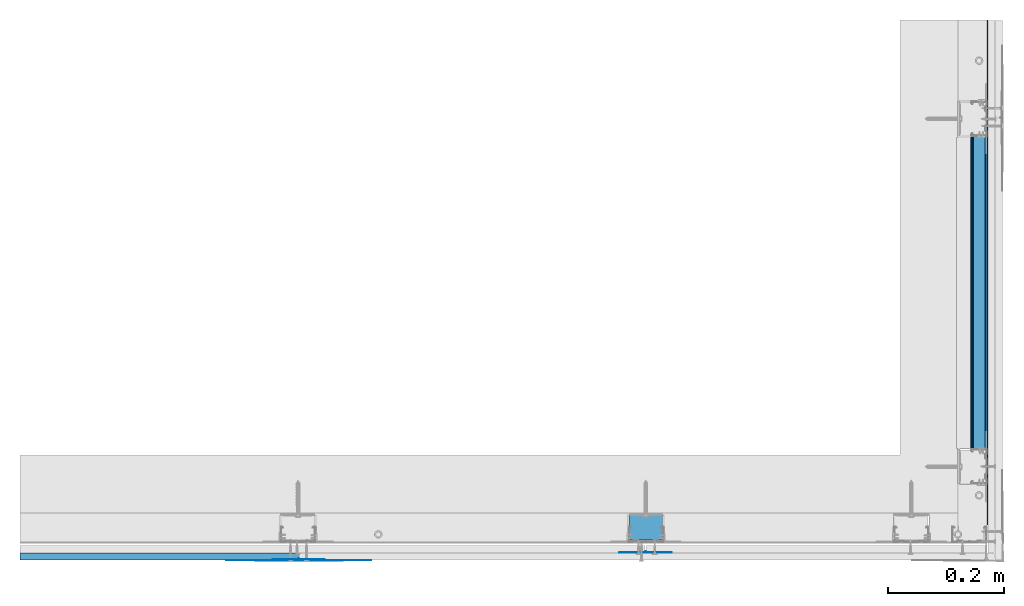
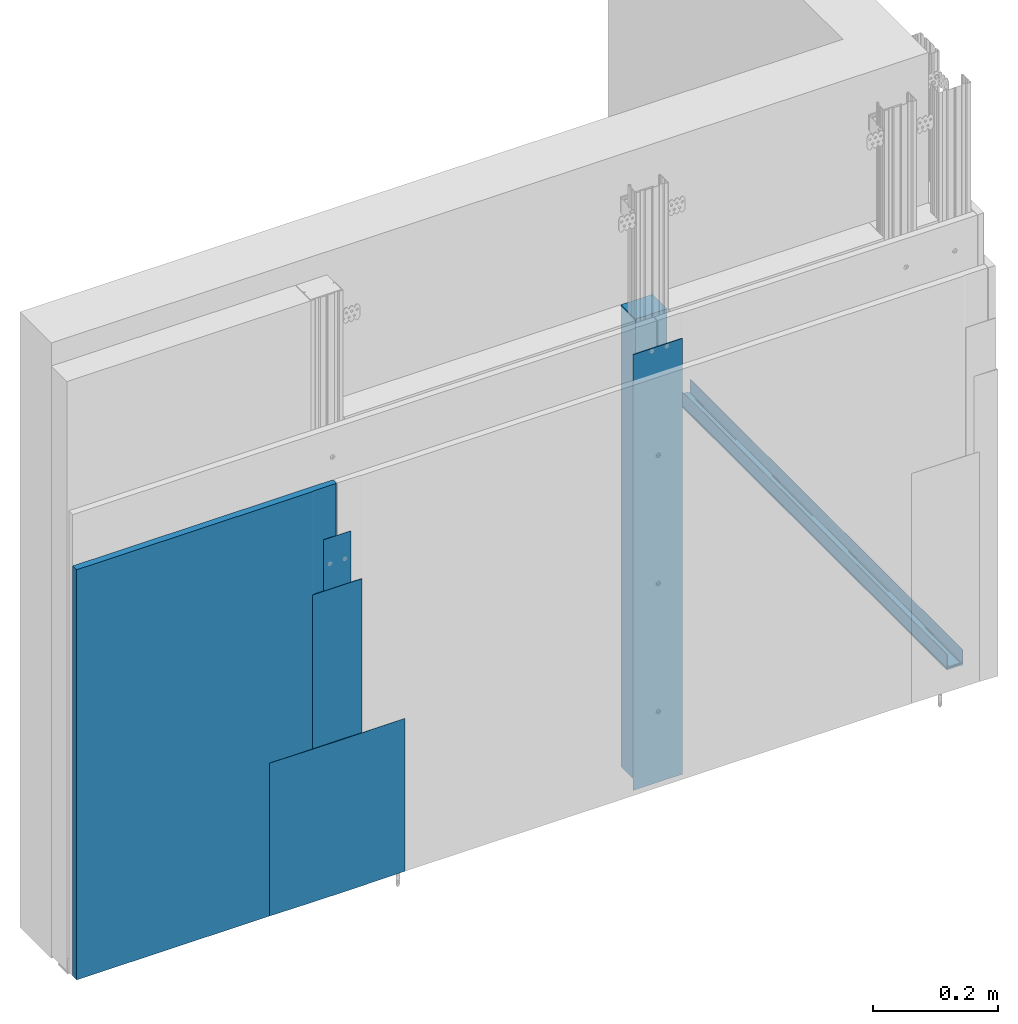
# One storey, part 5 of 56: 8 walls.
"""IFC2X3 building model written with IfcOpenShell, lengths in millimetres."""

from ifc_helpers import new_model, entity, si_unit, converted_unit, direction, frame, origin, origin_with_axes, place, context, project, spatial, faceted_brep, element, save


model = new_model("IFC2X3")

# Units and contexts
model_context = context("Model", 3, precision=1e-05, world=origin(), true_north=direction((0.0, 1.0, 0.0)))
ifc_project = project(units=[si_unit("LENGTHUNIT", "METRE", prefix="MILLI"), si_unit("AREAUNIT", "SQUARE_METRE"), si_unit("VOLUMEUNIT", "CUBIC_METRE"), converted_unit("PLANEANGLEUNIT", "DEGREE", entity("IfcPlaneAngleMeasure", 0.01745), si_unit("PLANEANGLEUNIT", "RADIAN"), dimensions=[0, 0, 0, 0, 0, 0, 0]), si_unit("SOLIDANGLEUNIT", "STERADIAN"), si_unit("MASSUNIT", "GRAM"), si_unit("TIMEUNIT", "SECOND"), si_unit("THERMODYNAMICTEMPERATUREUNIT", "DEGREE_CELSIUS"), si_unit("LUMINOUSINTENSITYUNIT", "LUMEN")], contexts=[model_context])

# Site, building, storey
site_placement = place(None, origin_with_axes())
site = spatial("IfcSite", under=ifc_project, at=site_placement, Name="Default Site", CompositionType="ELEMENT")
building_placement = place(site_placement, origin_with_axes())
building = spatial("IfcBuilding", under=site, at=building_placement, Name="Default Building", CompositionType="ELEMENT")
storey_placement = place(building_placement, origin_with_axes())
storey = spatial("IfcBuildingStorey", under=building, at=storey_placement, Name="Default Building Storey", CompositionType="ELEMENT", Elevation=0.0)

# Walls
wall_1_placement = place(storey_placement, frame((2296.026949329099, 3987.644992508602, -108.5909742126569), z_axis=(6.858158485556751e-13, -7.620176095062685e-14, 1.0), x_axis=(2.137179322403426e-15, -1.0, -7.620176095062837e-14)))
element("IfcWall", 1, at=wall_1_placement, inside=storey, Name="Taśma uszczelniająca piankowa RIGIPS", context=model_context, shape_type="Brep", body=[
    faceted_brep([(1114.628488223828, 1498.9660327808, 113.9750000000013), (1114.628488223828, 1498.9660327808, 110.9750000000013), (1114.628488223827, 1468.966032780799, 110.9750000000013), (1114.628488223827, 1468.9660327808, 113.9750000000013), (1985.856433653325, 1498.966032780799, 110.9750000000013), (1985.856433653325, 1498.966032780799, 113.9750000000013), (1985.856433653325, 1468.966032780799, 113.9750000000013), (1985.856433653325, 1468.966032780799, 110.9750000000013)], [[[0, 1, 2, 3]], [[4, 5, 6, 7]], [[5, 0, 3, 6]], [[6, 3, 2, 7]], [[7, 2, 1, 4]], [[4, 1, 0, 5]]]),
])
wall_2_placement = place(storey_placement, frame((2296.026949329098, 3652.877282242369, -108.5909742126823), z_axis=(6.858158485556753e-13, -7.620176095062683e-14, 1.0), x_axis=(2.137179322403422e-15, -1.0, -7.620176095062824e-14)))
element("IfcWall", 2, at=wall_2_placement, inside=storey, Name="Profil RIGIPS UD30 ULTRASTIL®", context=model_context, shape_type="Brep", body=[
    faceted_brep([(1651.088723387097, 1469.916032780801, 140.9749999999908), (1651.088723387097, 1469.366032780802, 140.9749999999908), (1651.088723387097, 1469.366032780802, 114.774999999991), (1651.088723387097, 1469.375882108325, 114.6498524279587), (1651.088723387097, 1469.405187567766, 114.5277864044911), (1651.088723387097, 1469.453227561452, 114.4118076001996), (1651.088723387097, 1469.518819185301, 114.3047717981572), (1651.088723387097, 1469.600347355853, 114.2093145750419), (1651.088723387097, 1469.695804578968, 114.1277864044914), (1651.088723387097, 1469.80284038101, 114.0621947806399), (1651.088723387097, 1469.918819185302, 114.0141547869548), (1651.088723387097, 1470.04088520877, 113.9848493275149), (1651.088723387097, 1470.166032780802, 113.9749999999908), (1651.088723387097, 1472.016032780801, 113.9749999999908), (1651.088723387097, 1472.163550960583, 113.9887186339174), (1651.088723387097, 1472.3060097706, 114.0294040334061), (1651.088723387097, 1472.438523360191, 114.0956608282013), (1651.088723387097, 1472.556546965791, 114.1852166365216), (1651.088723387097, 1472.656032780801, 114.2949999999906), (1651.088723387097, 1473.676032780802, 115.6549999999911), (1651.088723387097, 1473.775518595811, 115.7647833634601), (1651.088723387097, 1473.893542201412, 115.8543391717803), (1651.088723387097, 1474.026055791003, 115.9205959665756), (1651.088723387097, 1474.16851460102, 115.9612813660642), (1651.088723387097, 1474.316032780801, 115.9749999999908), (1651.088723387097, 1493.616032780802, 115.9749999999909), (1651.088723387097, 1493.763550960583, 115.9612813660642), (1651.088723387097, 1493.9060097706, 115.9205959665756), (1651.088723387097, 1494.03852336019, 115.8543391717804), (1651.088723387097, 1494.156546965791, 115.7647833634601), (1651.088723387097, 1494.256032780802, 115.6549999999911), (1651.088723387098, 1495.276032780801, 114.2949999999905), (1651.088723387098, 1495.375518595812, 114.1852166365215), (1651.088723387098, 1495.493542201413, 114.0956608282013), (1651.088723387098, 1495.626055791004, 114.0294040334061), (1651.088723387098, 1495.76851460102, 113.9887186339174), (1651.088723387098, 1495.916032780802, 113.9749999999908), (1651.088723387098, 1497.766032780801, 113.9749999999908), (1651.088723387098, 1497.891180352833, 113.9848493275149), (1651.088723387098, 1498.013246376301, 114.0141547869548), (1651.088723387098, 1498.129225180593, 114.0621947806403), (1651.088723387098, 1498.236260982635, 114.127786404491), (1651.088723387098, 1498.33171820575, 114.2093145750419), (1651.088723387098, 1498.413246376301, 114.3047717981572), (1651.088723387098, 1498.478838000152, 114.4118076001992), (1651.088723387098, 1498.526877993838, 114.5277864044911), (1651.088723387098, 1498.556183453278, 114.6498524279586), (1651.088723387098, 1498.566032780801, 114.774999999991), (1651.088723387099, 1498.566032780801, 140.9749999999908), (1651.088723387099, 1498.016032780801, 140.9749999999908), (1651.088723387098, 1498.016032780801, 114.774999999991), (1651.088723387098, 1498.01295486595, 114.7358913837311), (1651.088723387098, 1498.003796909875, 114.6977457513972), (1651.088723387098, 1497.988784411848, 114.661502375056), (1651.088723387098, 1497.968287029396, 114.6280536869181), (1651.088723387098, 1497.942809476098, 114.5982233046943), (1651.088723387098, 1497.912979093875, 114.5727457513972), (1651.088723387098, 1497.879530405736, 114.5522483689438), (1651.088723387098, 1497.843287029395, 114.5372358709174), (1651.088723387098, 1497.805141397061, 114.528077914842), (1651.088723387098, 1497.766032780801, 114.524999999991), (1651.088723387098, 1495.916032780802, 114.524999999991), (1651.088723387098, 1495.86993334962, 114.5292870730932), (1651.088723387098, 1495.82541497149, 114.5420012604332), (1651.088723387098, 1495.784004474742, 114.562706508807), (1651.088723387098, 1495.747122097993, 114.5906926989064), (1651.088723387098, 1495.716032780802, 114.6249999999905), (1651.088723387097, 1494.696032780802, 115.9849999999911), (1651.088723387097, 1494.528150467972, 116.1702594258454), (1651.088723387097, 1494.32898563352, 116.3213848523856), (1651.088723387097, 1494.105368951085, 116.4331931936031), (1651.088723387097, 1493.864969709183, 116.5018498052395), (1651.088723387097, 1493.616032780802, 116.5249999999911), (1651.088723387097, 1474.316032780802, 116.524999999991), (1651.088723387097, 1474.06709585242, 116.5018498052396), (1651.088723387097, 1473.826696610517, 116.4331931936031), (1651.088723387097, 1473.603079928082, 116.3213848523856), (1651.088723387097, 1473.403915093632, 116.1702594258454), (1651.088723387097, 1473.236032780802, 115.984999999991), (1651.088723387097, 1472.216032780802, 114.6249999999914), (1651.088723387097, 1472.184943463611, 114.5906926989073), (1651.088723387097, 1472.14806108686, 114.562706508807), (1651.088723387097, 1472.106650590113, 114.5420012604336), (1651.088723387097, 1472.062132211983, 114.5292870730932), (1651.088723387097, 1472.016032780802, 114.524999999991), (1651.088723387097, 1470.166032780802, 114.524999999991), (1651.088723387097, 1470.126924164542, 114.528077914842), (1651.088723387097, 1470.088778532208, 114.5372358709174), (1651.088723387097, 1470.052535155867, 114.5522483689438), (1651.088723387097, 1470.019086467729, 114.5727457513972), (1651.088723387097, 1469.989256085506, 114.5982233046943), (1651.088723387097, 1469.963778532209, 114.6280536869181), (1651.088723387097, 1469.943281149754, 114.661502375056), (1651.088723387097, 1469.928268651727, 114.6977457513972), (1651.088723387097, 1469.919110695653, 114.7358913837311), (1651.088723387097, 1469.916032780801, 114.774999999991), (779.8607779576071, 1469.366032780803, 114.7750000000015), (779.8607779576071, 1469.366032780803, 140.9750000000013), (779.8607779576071, 1469.916032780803, 140.9750000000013), (779.8607779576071, 1469.916032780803, 114.7750000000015), (779.8607779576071, 1469.919110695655, 114.7358913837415), (779.8607779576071, 1469.92826865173, 114.6977457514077), (779.8607779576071, 1469.943281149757, 114.6615023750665), (779.8607779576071, 1469.96377853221, 114.6280536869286), (779.8607779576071, 1469.989256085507, 114.5982233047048), (779.8607779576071, 1470.019086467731, 114.5727457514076), (779.8607779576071, 1470.052535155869, 114.5522483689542), (779.8607779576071, 1470.08877853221, 114.5372358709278), (779.8607779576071, 1470.126924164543, 114.5280779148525), (779.8607779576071, 1470.166032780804, 114.5250000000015), (779.8607779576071, 1472.016032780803, 114.5250000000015), (779.8607779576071, 1472.062132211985, 114.5292870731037), (779.8607779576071, 1472.106650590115, 114.5420012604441), (779.8607779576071, 1472.148061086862, 114.5627065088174), (779.8607779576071, 1472.184943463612, 114.5906926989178), (779.8607779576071, 1472.216032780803, 114.6250000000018), (779.8607779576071, 1473.236032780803, 115.9850000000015), (779.8607779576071, 1473.403915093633, 116.1702594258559), (779.8607779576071, 1473.603079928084, 116.321384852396), (779.8607779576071, 1473.826696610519, 116.4331931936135), (779.8607779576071, 1474.067095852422, 116.50184980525), (779.8607779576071, 1474.316032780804, 116.5250000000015), (779.8607779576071, 1493.616032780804, 116.5250000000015), (779.8607779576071, 1493.864969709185, 116.50184980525), (779.8607779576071, 1494.105368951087, 116.4331931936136), (779.8607779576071, 1494.328985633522, 116.321384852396), (779.8607779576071, 1494.528150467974, 116.1702594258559), (779.8607779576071, 1494.696032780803, 115.9850000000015), (779.8607779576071, 1495.716032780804, 114.6250000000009), (779.8607779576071, 1495.747122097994, 114.5906926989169), (779.8607779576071, 1495.784004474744, 114.5627065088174), (779.8607779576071, 1495.825414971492, 114.5420012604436), (779.8607779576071, 1495.869933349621, 114.5292870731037), (779.8607779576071, 1495.916032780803, 114.5250000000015), (779.8607779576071, 1497.766032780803, 114.5250000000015), (779.8607779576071, 1497.805141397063, 114.5280779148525), (779.8607779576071, 1497.843287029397, 114.5372358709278), (779.8607779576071, 1497.879530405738, 114.5522483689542), (779.8607779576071, 1497.912979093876, 114.5727457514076), (779.8607779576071, 1497.9428094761, 114.5982233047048), (779.8607779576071, 1497.968287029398, 114.6280536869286), (779.8607779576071, 1497.98878441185, 114.6615023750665), (779.8607779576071, 1498.003796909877, 114.6977457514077), (779.8607779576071, 1498.012954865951, 114.7358913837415), (779.8607779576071, 1498.016032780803, 114.7750000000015), (779.8607779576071, 1498.016032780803, 140.9750000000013), (779.8607779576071, 1498.566032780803, 140.9750000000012), (779.8607779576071, 1498.566032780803, 114.7750000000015), (779.8607779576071, 1498.556183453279, 114.6498524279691), (779.8607779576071, 1498.526877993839, 114.5277864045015), (779.8607779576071, 1498.478838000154, 114.4118076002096), (779.8607779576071, 1498.413246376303, 114.3047717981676), (779.8607779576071, 1498.331718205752, 114.2093145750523), (779.8607779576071, 1498.236260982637, 114.1277864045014), (779.8607779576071, 1498.129225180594, 114.0621947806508), (779.8607779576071, 1498.013246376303, 114.0141547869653), (779.8607779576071, 1497.891180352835, 113.9848493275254), (779.8607779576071, 1497.766032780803, 113.9750000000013), (779.8607779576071, 1495.916032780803, 113.9750000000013), (779.8607779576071, 1495.768514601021, 113.9887186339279), (779.8607779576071, 1495.626055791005, 114.0294040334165), (779.8607779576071, 1495.493542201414, 114.0956608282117), (779.8607779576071, 1495.375518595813, 114.185216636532), (779.8607779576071, 1495.276032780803, 114.295000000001), (779.8607779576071, 1494.256032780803, 115.6550000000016), (779.8607779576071, 1494.156546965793, 115.7647833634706), (779.8607779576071, 1494.038523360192, 115.8543391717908), (779.8607779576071, 1493.906009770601, 115.920595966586), (779.8607779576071, 1493.763550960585, 115.9612813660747), (779.8607779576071, 1493.616032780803, 115.9750000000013), (779.8607779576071, 1474.316032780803, 115.9750000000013), (779.8607779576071, 1474.168514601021, 115.9612813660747), (779.8607779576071, 1474.026055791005, 115.920595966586), (779.8607779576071, 1473.893542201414, 115.8543391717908), (779.8607779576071, 1473.775518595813, 115.7647833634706), (779.8607779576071, 1473.676032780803, 115.6550000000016), (779.8607779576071, 1472.656032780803, 114.295000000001), (779.8607779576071, 1472.556546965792, 114.185216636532), (779.8607779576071, 1472.438523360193, 114.0956608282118), (779.8607779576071, 1472.306009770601, 114.0294040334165), (779.8607779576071, 1472.163550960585, 113.9887186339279), (779.8607779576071, 1472.016032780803, 113.9750000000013), (779.8607779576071, 1470.166032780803, 113.9750000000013), (779.8607779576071, 1470.040885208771, 113.9848493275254), (779.8607779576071, 1469.918819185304, 114.0141547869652), (779.8607779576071, 1469.802840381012, 114.0621947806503), (779.8607779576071, 1469.695804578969, 114.1277864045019), (779.8607779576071, 1469.600347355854, 114.2093145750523), (779.8607779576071, 1469.518819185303, 114.3047717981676), (779.8607779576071, 1469.453227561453, 114.4118076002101), (779.8607779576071, 1469.405187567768, 114.5277864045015), (779.8607779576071, 1469.375882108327, 114.6498524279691)], [[[0, 1, 2, 3, 4, 5, 6, 7, 8, 9, 10, 11, 12, 13, 14, 15, 16, 17, 18, 19, 20, 21, 22, 23, 24, 25, 26, 27, 28, 29, 30, 31, 32, 33, 34, 35, 36, 37, 38, 39, 40, 41, 42, 43, 44, 45, 46, 47, 48, 49, 50, 51, 52, 53, 54, 55, 56, 57, 58, 59, 60, 61, 62, 63, 64, 65, 66, 67, 68, 69, 70, 71, 72, 73, 74, 75, 76, 77, 78, 79, 80, 81, 82, 83, 84, 85, 86, 87, 88, 89, 90, 91, 92, 93, 94, 95]], [[96, 97, 98, 99, 100, 101, 102, 103, 104, 105, 106, 107, 108, 109, 110, 111, 112, 113, 114, 115, 116, 117, 118, 119, 120, 121, 122, 123, 124, 125, 126, 127, 128, 129, 130, 131, 132, 133, 134, 135, 136, 137, 138, 139, 140, 141, 142, 143, 144, 145, 146, 147, 148, 149, 150, 151, 152, 153, 154, 155, 156, 157, 158, 159, 160, 161, 162, 163, 164, 165, 166, 167, 168, 169, 170, 171, 172, 173, 174, 175, 176, 177, 178, 179, 180, 181, 182, 183, 184, 185, 186, 187, 188, 189, 190, 191]], [[23, 171, 170, 24]], [[22, 172, 171, 23]], [[175, 174, 20, 19]], [[172, 22, 21, 173]], [[20, 174, 173, 21]], [[24, 170, 169, 25]], [[29, 165, 164, 30]], [[165, 29, 28, 166]], [[27, 167, 166, 28]], [[169, 168, 26, 25]], [[26, 168, 167, 27]], [[30, 164, 163, 31]], [[35, 159, 158, 36]], [[34, 160, 159, 35]], [[33, 32, 162, 161]], [[161, 160, 34, 33]], [[163, 162, 32, 31]], [[36, 158, 157, 37]], [[46, 45, 149, 148]], [[148, 147, 47, 46]], [[44, 150, 149, 45]], [[43, 42, 152, 151]], [[151, 150, 44, 43]], [[41, 40, 154, 153]], [[153, 152, 42, 41]], [[39, 155, 154, 40]], [[38, 37, 157, 156]], [[156, 155, 39, 38]], [[47, 147, 146, 48]], [[48, 146, 145, 49]], [[49, 145, 144, 50]], [[134, 60, 59, 135]], [[58, 136, 135, 59]], [[57, 137, 136, 58]], [[137, 57, 56, 138]], [[55, 139, 138, 56]], [[139, 55, 54, 140]], [[53, 141, 140, 54]], [[52, 142, 141, 53]], [[142, 52, 51, 143]], [[50, 144, 143, 51]], [[60, 134, 133, 61]], [[65, 129, 128, 66]], [[129, 65, 64, 130]], [[63, 131, 130, 64]], [[133, 132, 62, 61]], [[62, 132, 131, 63]], [[66, 128, 127, 67]], [[71, 123, 122, 72]], [[70, 69, 125, 124]], [[124, 123, 71, 70]], [[68, 126, 125, 69]], [[127, 126, 68, 67]], [[72, 122, 121, 73]], [[77, 117, 116, 78]], [[76, 118, 117, 77]], [[75, 74, 120, 119]], [[119, 118, 76, 75]], [[121, 120, 74, 73]], [[78, 116, 115, 79]], [[83, 111, 110, 84]], [[82, 112, 111, 83]], [[115, 114, 80, 79]], [[112, 82, 81, 113]], [[80, 114, 113, 81]], [[84, 110, 109, 85]], [[99, 95, 94, 100]], [[93, 101, 100, 94]], [[92, 102, 101, 93]], [[102, 92, 91, 103]], [[90, 104, 103, 91]], [[104, 90, 89, 105]], [[88, 106, 105, 89]], [[87, 107, 106, 88]], [[107, 87, 86, 108]], [[85, 109, 108, 86]], [[95, 99, 98, 0]], [[0, 98, 97, 1]], [[1, 97, 96, 2]], [[11, 10, 184, 183]], [[183, 182, 12, 11]], [[9, 185, 184, 10]], [[6, 5, 189, 188]], [[7, 6, 188, 187]], [[8, 7, 187, 186]], [[186, 185, 9, 8]], [[4, 190, 189, 5]], [[3, 2, 96, 191]], [[191, 190, 4, 3]], [[12, 182, 181, 13]], [[17, 177, 176, 18]], [[16, 15, 179, 178]], [[178, 177, 17, 16]], [[14, 180, 179, 15]], [[181, 180, 14, 13]], [[18, 176, 175, 19]]]),
])
wall_3_placement = place(storey_placement, frame((2605.098644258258, 1953.680077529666, 1059.193597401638), z_axis=(0.0, 0.0, 1.0), x_axis=(-1.0, -6.389333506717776e-13, 0.0)))
element("IfcWall", 3, at=wall_3_placement, inside=storey, Name="Płyta gipsowo-kartonowa RIGIPS PRO (4PRO™)", context=model_context, shape_type="Brep", body=[
    faceted_brep([(480.0735107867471, 12.49999999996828, -250.0000000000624), (480.0735107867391, -3.320792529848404e-11, -250.0000000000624), (480.0735107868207, 6.244533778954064e-11, -1050.001581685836), (480.0735107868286, 12.50000000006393, -1050.001581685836), (44.99999999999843, 12.50000000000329, -1050.001581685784), (44.99999999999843, 12.50000000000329, -249.9999999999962), (40.99999999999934, 11.5000000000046, -249.9999999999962), (40.99999999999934, 11.5000000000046, -1050.001581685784), (0.9999999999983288, 11.50000000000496, -249.9999999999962), (0.9999999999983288, 11.50000000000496, -1050.001581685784), (0.7411809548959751, 11.46592582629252, -249.9999999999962), (0.7411809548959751, 11.46592582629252, -1050.001581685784), (0.4999999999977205, 11.3660254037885, -249.9999999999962), (0.4999999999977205, 11.3660254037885, -1050.001581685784), (0.29289321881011, 11.20710678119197, -249.9999999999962), (0.29289321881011, 11.20710678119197, -1050.001581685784), (0.1339745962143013, 11.00000000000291, -249.9999999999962), (0.1339745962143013, 11.00000000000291, -1050.001581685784), (0.03407417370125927, 10.7588190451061, -249.9999999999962), (0.03407417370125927, 10.7588190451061, -1050.001581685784), (-4.692424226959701e-12, 10.50000000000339, -249.9999999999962), (-4.692424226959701e-12, 10.50000000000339, -1050.001581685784), (0.0, 0.0, -249.9999999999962), (0.0, 0.0, -1050.001581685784)], [[[0, 1, 2, 3]], [[0, 3, 4, 5]], [[6, 5, 4, 7]], [[8, 6, 7, 9]], [[10, 8, 9, 11]], [[12, 10, 11, 13]], [[14, 12, 13, 15]], [[16, 14, 15, 17]], [[18, 16, 17, 19]], [[20, 18, 19, 21]], [[22, 20, 21, 23]], [[23, 2, 1, 22]], [[4, 3, 2, 23, 21, 19, 17, 15, 13, 11, 9, 7]], [[1, 0, 5, 6, 8, 10, 12, 14, 16, 18, 20, 22]]]),
])
wall_4_placement = place(storey_placement, frame((2467.14430230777, 5344.236799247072, 258.3935974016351), z_axis=(0.0, 0.0, 1.0), x_axis=(-1.0, 4.718447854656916e-16, 0.0)))
element("IfcWall", 4, at=wall_4_placement, inside=storey, Name="Dedykowana masa szpachlowa Rigips - konstrukcyjna", context=model_context, shape_type="Brep", body=[
    faceted_brep([(-737.4838396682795, 3387.669590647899, 600.7999999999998), (-737.4592163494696, 3387.356721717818, 600.7999999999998), (-737.4345930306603, 3387.669590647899, 600.7999999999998), (-737.3613293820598, 3387.974755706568, 600.7999999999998), (-737.2412293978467, 3388.264702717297, 600.7999999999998), (-737.0772503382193, 3388.532292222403, 600.7999999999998), (-736.8734299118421, 3388.770935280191, 600.7999999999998), (-736.6347868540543, 3388.974755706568, 600.7999999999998), (-736.3671973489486, 3389.138734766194, 600.7999999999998), (-736.0772503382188, 3389.258834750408, 600.7999999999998), (-735.7720852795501, 3389.332098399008, 600.7999999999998), (-735.4592163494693, 3389.356721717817, 600.7999999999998), (-692.4592163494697, 3389.356721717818, 600.7999999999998), (-691.4592163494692, 3390.556721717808, 600.7999999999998), (-782.4592163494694, 3390.556721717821, 600.7999999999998), (-782.4592163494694, 3389.356721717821, 600.7999999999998), (-739.4592163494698, 3389.356721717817, 600.7999999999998), (-739.146347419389, 3389.332098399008, 600.7999999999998), (-738.8411823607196, 3389.258834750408, 600.7999999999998), (-738.5512353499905, 3389.138734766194, 600.7999999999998), (-738.2836458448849, 3388.974755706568, 600.7999999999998), (-738.045002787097, 3388.770935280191, 600.7999999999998), (-737.8411823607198, 3388.532292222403, 600.7999999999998), (-737.6772033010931, 3388.264702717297, 600.7999999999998), (-737.5571033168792, 3387.974755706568, 600.7999999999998), (-691.4592163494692, 3390.556721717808, -249.2015816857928), (-692.4592163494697, 3389.356721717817, -249.2015816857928), (-735.4592163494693, 3389.356721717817, -249.2015816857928), (-735.7720852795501, 3389.332098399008, -249.2015816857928), (-736.0772503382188, 3389.258834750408, -249.2015816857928), (-736.3671973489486, 3389.138734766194, -249.2015816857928), (-736.6347868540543, 3388.974755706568, -249.2015816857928), (-736.8734299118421, 3388.77093528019, -249.2015816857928), (-737.0772503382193, 3388.532292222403, -249.2015816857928), (-737.2412293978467, 3388.264702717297, -249.2015816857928), (-737.3613293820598, 3387.974755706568, -249.2015816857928), (-737.4345930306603, 3387.669590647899, -249.2015816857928), (-737.4592163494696, 3387.356721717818, -249.2015816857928), (-737.4838396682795, 3387.669590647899, -249.2015816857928), (-737.5571033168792, 3387.974755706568, -249.2015816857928), (-737.6772033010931, 3388.264702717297, -249.2015816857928), (-737.8411823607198, 3388.532292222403, -249.2015816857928), (-738.045002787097, 3388.77093528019, -249.2015816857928), (-738.2836458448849, 3388.974755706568, -249.2015816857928), (-738.5512353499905, 3389.138734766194, -249.2015816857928), (-738.8411823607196, 3389.258834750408, -249.2015816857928), (-739.146347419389, 3389.332098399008, -249.2015816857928), (-739.4592163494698, 3389.356721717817, -249.2015816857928), (-782.4592163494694, 3389.356721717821, -249.2015816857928), (-782.4592163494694, 3390.556721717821, -249.2015816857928)], [[[0, 1, 2, 3, 4, 5, 6, 7, 8, 9, 10, 11, 12, 13, 14, 15, 16, 17, 18, 19, 20, 21, 22, 23, 24]], [[25, 26, 27, 28, 29, 30, 31, 32, 33, 34, 35, 36, 37, 38, 39, 40, 41, 42, 43, 44, 45, 46, 47, 48, 49]], [[26, 12, 11, 27]], [[10, 9, 29, 28]], [[28, 27, 11, 10]], [[8, 30, 29, 9]], [[7, 6, 32, 31]], [[31, 30, 8, 7]], [[5, 4, 34, 33]], [[33, 32, 6, 5]], [[3, 35, 34, 4]], [[2, 1, 37, 36]], [[36, 35, 3, 2]], [[0, 24, 39, 38]], [[38, 37, 1, 0]], [[23, 40, 39, 24]], [[22, 21, 42, 41]], [[41, 40, 23, 22]], [[20, 19, 44, 43]], [[43, 42, 21, 20]], [[18, 45, 44, 19]], [[17, 16, 47, 46]], [[46, 45, 18, 17]], [[47, 16, 15, 48]], [[48, 15, 14, 49]], [[49, 14, 13, 25]], [[25, 13, 12, 26]]]),
])
wall_5_placement = place(storey_placement, frame((1868.639427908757, 5331.736799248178, 6.74201878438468), z_axis=(0.0, 0.0, 1.0), x_axis=(-1.0, 4.718447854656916e-16, 0.0)))
element("IfcWall", 5, at=wall_5_placement, inside=storey, Name="Dedykowana masa szpachlowa Rigips - konstrukcyjna", context=model_context, shape_type="Brep", body=[
    faceted_brep([(-737.4838396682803, 3387.6695906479, 600.7999999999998), (-737.4592163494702, 3387.356721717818, 600.7999999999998), (-737.434593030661, 3387.6695906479, 600.7999999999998), (-737.3613293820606, 3387.974755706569, 600.7999999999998), (-737.2412293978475, 3388.264702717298, 600.7999999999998), (-737.07725033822, 3388.532292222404, 600.7999999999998), (-736.8734299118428, 3388.770935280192, 600.7999999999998), (-736.6347868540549, 3388.974755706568, 600.7999999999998), (-736.3671973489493, 3389.138734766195, 600.7999999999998), (-736.0772503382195, 3389.258834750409, 600.7999999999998), (-735.7720852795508, 3389.332098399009, 600.7999999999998), (-735.45921634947, 3389.356721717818, 600.7999999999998), (-692.4592163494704, 3389.356721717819, 600.7999999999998), (-691.4592163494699, 3390.556721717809, 600.7999999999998), (-782.4592163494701, 3390.556721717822, 600.7999999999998), (-782.4592163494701, 3389.356721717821, 600.7999999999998), (-739.4592163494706, 3389.356721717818, 600.7999999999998), (-739.1463474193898, 3389.332098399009, 600.7999999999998), (-738.8411823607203, 3389.258834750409, 600.7999999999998), (-738.5512353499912, 3389.138734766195, 600.7999999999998), (-738.2836458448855, 3388.974755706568, 600.7999999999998), (-738.0450027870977, 3388.770935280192, 600.7999999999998), (-737.8411823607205, 3388.532292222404, 600.7999999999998), (-737.6772033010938, 3388.264702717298, 600.7999999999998), (-737.55710331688, 3387.974755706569, 600.7999999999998), (-691.4592163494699, 3390.556721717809, 2.449996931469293), (-692.4592163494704, 3389.356721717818, 2.449996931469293), (-735.45921634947, 3389.356721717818, 2.449996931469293), (-735.7720852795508, 3389.332098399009, 2.449996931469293), (-736.0772503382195, 3389.258834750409, 2.449996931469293), (-736.3671973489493, 3389.138734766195, 2.449996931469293), (-736.6347868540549, 3388.974755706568, 2.449996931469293), (-736.8734299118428, 3388.770935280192, 2.449996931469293), (-737.07725033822, 3388.532292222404, 2.449996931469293), (-737.2412293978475, 3388.264702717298, 2.449996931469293), (-737.3613293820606, 3387.974755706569, 2.449996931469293), (-737.434593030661, 3387.6695906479, 2.449996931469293), (-737.4592163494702, 3387.356721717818, 2.449996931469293), (-737.4838396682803, 3387.6695906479, 2.449996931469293), (-737.55710331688, 3387.974755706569, 2.449996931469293), (-737.6772033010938, 3388.264702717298, 2.449996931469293), (-737.8411823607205, 3388.532292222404, 2.449996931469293), (-738.0450027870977, 3388.770935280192, 2.449996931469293), (-738.2836458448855, 3388.974755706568, 2.449996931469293), (-738.5512353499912, 3389.138734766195, 2.449996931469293), (-738.8411823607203, 3389.258834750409, 2.449996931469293), (-739.1463474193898, 3389.332098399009, 2.449996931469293), (-739.4592163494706, 3389.356721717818, 2.449996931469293), (-782.4592163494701, 3389.356721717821, 2.449996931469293), (-782.4592163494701, 3390.556721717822, 2.449996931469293)], [[[0, 1, 2, 3, 4, 5, 6, 7, 8, 9, 10, 11, 12, 13, 14, 15, 16, 17, 18, 19, 20, 21, 22, 23, 24]], [[25, 26, 27, 28, 29, 30, 31, 32, 33, 34, 35, 36, 37, 38, 39, 40, 41, 42, 43, 44, 45, 46, 47, 48, 49]], [[26, 12, 11, 27]], [[10, 9, 29, 28]], [[28, 27, 11, 10]], [[8, 30, 29, 9]], [[7, 6, 32, 31]], [[31, 30, 8, 7]], [[5, 4, 34, 33]], [[33, 32, 6, 5]], [[3, 35, 34, 4]], [[2, 1, 37, 36]], [[36, 35, 3, 2]], [[0, 24, 39, 38]], [[38, 37, 1, 0]], [[23, 40, 39, 24]], [[22, 21, 42, 41]], [[41, 40, 23, 22]], [[20, 19, 44, 43]], [[43, 42, 21, 20]], [[18, 45, 44, 19]], [[17, 16, 47, 46]], [[46, 45, 18, 17]], [[47, 16, 15, 48]], [[48, 15, 14, 49]], [[49, 14, 13, 25]], [[25, 13, 12, 26]]]),
])
wall_6_placement = place(storey_placement, frame((1868.639427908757, 5331.736799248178, 6.74201878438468), z_axis=(0.0, 0.0, 1.0), x_axis=(-1.0, 4.718447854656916e-16, 0.0)))
element("IfcWall", 6, at=wall_6_placement, inside=storey, Name="Dedykowana masa szpachlowa Rigips - wykończeniowa", context=model_context, shape_type="Brep", body=[
    faceted_brep([(-612.459216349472, 3390.556721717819, 2.449996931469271), (-862.459216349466, 3390.556721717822, 2.449996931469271), (-812.4612643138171, 3391.196716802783, 2.449996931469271), (-762.4602403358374, 3391.516720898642, 2.449996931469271), (-712.458192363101, 3391.516720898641, 2.449996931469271), (-662.4571683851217, 3391.19671680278, 2.449996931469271), (-762.4602403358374, 3391.516720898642, 300.8000000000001), (-812.4612643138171, 3391.196716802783, 300.8000000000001), (-862.459216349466, 3390.556721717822, 300.8000000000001), (-612.459216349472, 3390.556721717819, 300.8000000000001), (-662.4571683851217, 3391.19671680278, 300.8000000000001), (-712.458192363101, 3391.516720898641, 300.8000000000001)], [[[0, 1, 2, 3, 4, 5]], [[6, 7, 8, 9, 10, 11]], [[9, 0, 5, 10]], [[10, 5, 4, 11]], [[11, 4, 3, 6]], [[6, 3, 2, 7]], [[1, 8, 7, 2]], [[0, 9, 8, 1]]]),
])
wall_7_placement = place(storey_placement, frame((1868.639427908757, 5331.736799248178, 6.74201878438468), z_axis=(0.0, 0.0, 1.0), x_axis=(-1.0, 4.718447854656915e-16, 0.0)))
element("IfcWall", 7, at=wall_7_placement, inside=storey, Name="Taśma spoinowa RIGIPS", context=model_context, shape_type="Brep", body=[
    faceted_brep([(-712.4592163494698, 3389.356721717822, 700.7999999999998), (-712.4592163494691, 3389.856721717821, 700.7999999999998), (-762.4592163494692, 3389.856721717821, 700.7999999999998), (-762.45921634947, 3389.35672171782, 700.7999999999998), (-712.4592163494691, 3389.856721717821, 2.449996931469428), (-712.4592163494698, 3389.35672171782, 2.449996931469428), (-762.45921634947, 3389.35672171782, 2.449996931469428), (-762.4592163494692, 3389.856721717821, 2.449996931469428)], [[[0, 1, 2, 3]], [[4, 5, 6, 7]], [[5, 0, 3, 6]], [[6, 3, 2, 7]], [[7, 2, 1, 4]], [[4, 1, 0, 5]]]),
])
wall_8_placement = place(storey_placement, frame((3007.818779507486, 5350.42414647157, -2.349999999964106), z_axis=(0.0, 0.0, 1.0), x_axis=(-1.0, 4.718447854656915e-16, 0.0)))
element("IfcWall", 8, at=wall_8_placement, inside=storey, Name="Wypełnienie z wełny mineralnej szklanej ISOVER", context=model_context, shape_type="Brep", body=[
    faceted_brep([(-168.1247796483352, 3328.283223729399, 911.5435974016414), (-225.8247796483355, 3328.283223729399, 911.5435974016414), (-225.8247796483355, 3328.283223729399, 10.28402578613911), (-168.1247796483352, 3328.283223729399, 10.28402578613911), (-168.1247796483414, 3370.612995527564, 10.28402578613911), (-168.1247796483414, 3370.612995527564, 911.5435974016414), (-225.8247796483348, 3374.8332237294, 911.5435974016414), (-168.1247796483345, 3374.833223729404, 911.5435974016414), (-168.1247796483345, 3374.833223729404, 10.28402578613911), (-225.8247796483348, 3374.8332237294, 10.28402578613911)], [[[0, 1, 2, 3]], [[3, 4, 5, 0]], [[6, 7, 8, 9]], [[1, 6, 9, 2]], [[8, 4, 3, 2, 9]], [[1, 0, 5, 7, 6]], [[5, 4, 8, 7]]]),
])

save(model, "model.ifc")
